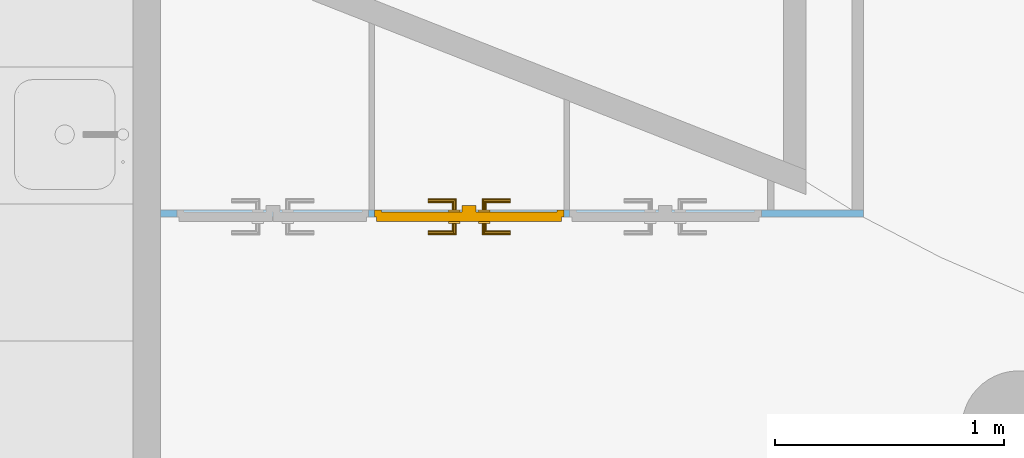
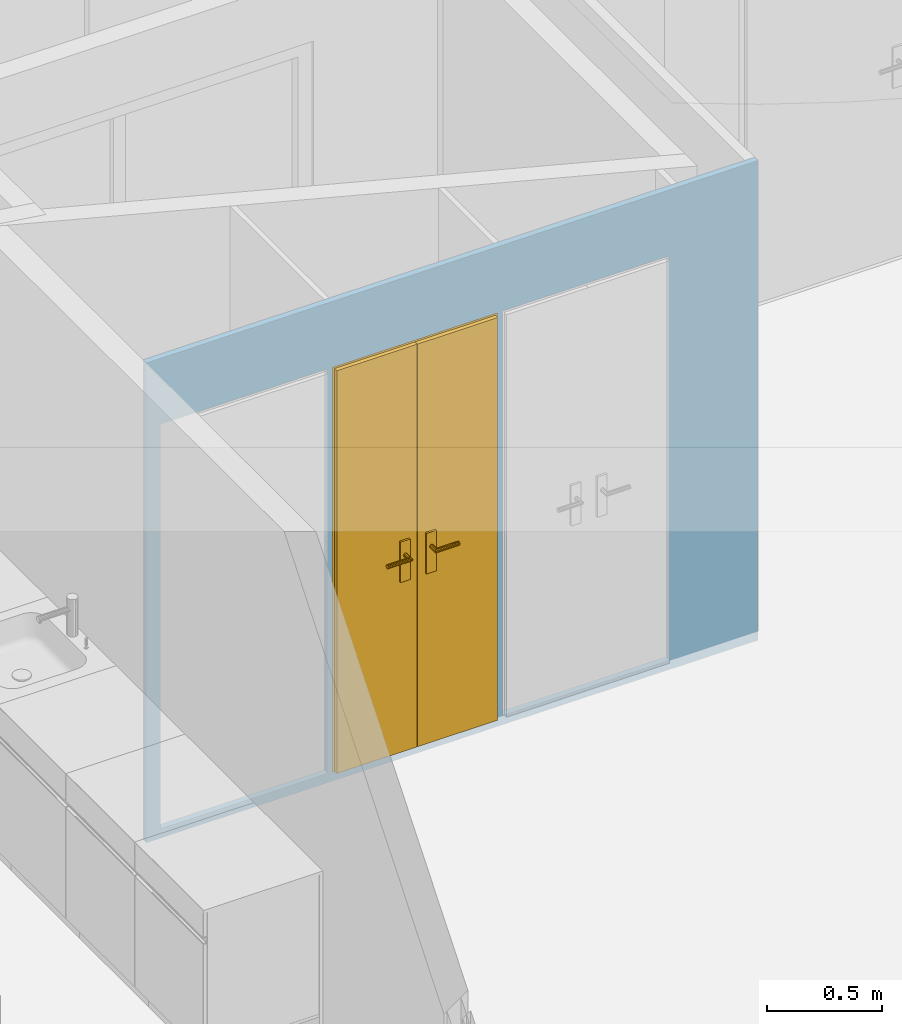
"""IFC4 building model written with IfcOpenShell, lengths in metres."""

from ifc_helpers import new_model, entity, si_unit, converted_unit, derived_unit, frame, frame_2d, origin, origin_with_axes, place, context, subcontext, project, spatial, polyline, rectangle, outline, extrude, faceted_brep, source, transform, mapped, material, layer, layer_set, layer_usage, element, fill, save


model = new_model("IFC4")

# Units and contexts
model_context = context("Model", 3, precision=1e-05, world=origin())
body_context = subcontext(model_context, "Body", "Model", "MODEL_VIEW")
ifc_project = project(units=[si_unit("LENGTHUNIT", "METRE"), si_unit("AREAUNIT", "SQUARE_METRE"), si_unit("VOLUMEUNIT", "CUBIC_METRE"), si_unit("MASSUNIT", "GRAM", prefix="KILO"), converted_unit("PLANEANGLEUNIT", "DEGREE", entity("IfcPlaneAngleMeasure", 0.0174532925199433), si_unit("PLANEANGLEUNIT", "RADIAN"), dimensions=[0, 0, 0, 0, 0, 0, 0]), derived_unit("THERMALTRANSMITTANCEUNIT", [(si_unit("POWERUNIT", "WATT"), 1), (si_unit("THERMODYNAMICTEMPERATUREUNIT", "KELVIN"), -1), (si_unit("LENGTHUNIT", "METRE"), -2)]), derived_unit("VOLUMETRICFLOWRATEUNIT", [(si_unit("LENGTHUNIT", "METRE"), 3), (converted_unit("TIMEUNIT", "hour", entity("IfcTimeMeasure", 3600.0), si_unit("TIMEUNIT", "SECOND"), dimensions=[0, 0, 1, 0, 0, 0, 0]), -1), (si_unit("LENGTHUNIT", "METRE"), -1)])], contexts=[model_context])

# Building, storeys
building_placement = place(None, origin())
building = spatial("IfcBuilding", under=ifc_project, at=building_placement, Name="HABITATGE PLURIFAMILIAR", CompositionType="ELEMENT")
storey_1_placement = place(building_placement, frame((0.0, 0.0, 3.35)))
storey_1 = spatial("IfcBuildingStorey", under=building, at=storey_1_placement, Name="PLANTA  ALTELL", CompositionType="ELEMENT", Elevation=3.35)
storey_2_placement = place(storey_1_placement, origin())
storey_2 = spatial("IfcBuildingStorey", under=storey_1, at=storey_2_placement, Name="NOU", CompositionType="PARTIAL")

# Wall, openings, door
ifc_material = material()
ifc_layer = layer(ifc_material, 0.03)
ifc_layer_set = layer_set([ifc_layer])
ifc_layer_usage = layer_usage(ifc_layer_set, "AXIS2", "POSITIVE", 0.0)
wall_placement = place(storey_2_placement, frame((406.991931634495, 22.0635846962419, -0.05)))
wall = element("IfcWall", 1, at=wall_placement, inside=storey_2, material=ifc_layer_usage, Name="Evans PA", context=body_context, shape_type="SweptSolid", body=[
    extrude(rectangle(XDim=3.07526201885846, YDim=0.03, at=frame_2d((1.53763100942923, 0.015), x_axis=(1.0, 0.0))), origin_with_axes(), (0.0, 0.0, 1.0), 2.55),
])
opening_1_placement = place(wall_placement, frame((0.935853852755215, 0.0, 0.05), z_axis=(0.0, 1.0, 0.0), x_axis=(0.0, 0.0, 1.0)))
opening_1 = element("IfcOpeningElement", 2, at=opening_1_placement, cuts=wall, Name="Vano de puerta PA", ObjectType="Opening", context=body_context, shape_type="SweptSolid", body=[
    extrude(outline(polyline([(2.15, 0.828330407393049), (2.15, 0.0), (0.0, 0.0), (0.0, 0.828330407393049), (2.15, 0.828330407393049)])), origin_with_axes(), (0.0, 0.0, 1.0), 0.03),
])
opening_2_placement = place(wall_placement, frame((1.78918426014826, 0.0, 0.05), z_axis=(0.0, 1.0, 0.0), x_axis=(0.0, 0.0, 1.0)))
element("IfcOpeningElement", 3, at=opening_2_placement, cuts=wall, Name="Vano de puerta PA", ObjectType="Opening", context=body_context, shape_type="SweptSolid", body=[
    extrude(outline(polyline([(2.15, 0.839188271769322), (2.15, 0.0), (0.0, 0.0), (0.0, 0.839188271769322), (2.15, 0.839188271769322)])), origin_with_axes(), (0.0, 0.0, 1.0), 0.03),
])
opening_3_placement = place(wall_placement, frame((0.0714767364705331, 0.0, 0.05), z_axis=(0.0, 1.0, 0.0), x_axis=(0.0, 0.0, 1.0)))
element("IfcOpeningElement", 4, at=opening_3_placement, cuts=wall, Name="Vano de puerta PA", ObjectType="Opening", context=body_context, shape_type="SweptSolid", body=[
    extrude(outline(polyline([(2.15, 0.839188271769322), (2.15, 0.0), (0.0, 0.0), (0.0, 0.839188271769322), (2.15, 0.839188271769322)])), origin_with_axes(), (0.0, 0.0, 1.0), 0.03),
])
shared_shape = source(origin_with_axes(), body_context, "Body", "Brep", [
    faceted_brep([(0.828330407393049, 0.03, 2.15), (0.798330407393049, 0.03, 2.15), (0.798330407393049, 0.03, 0.0), (0.828330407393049, 0.03, 0.0), (0.828330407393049, 0.0, 0.0), (0.798330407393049, 0.0, 0.0), (0.798330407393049, 0.0, 2.15), (0.828330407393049, 0.0, 2.15)], [[[0, 1, 2, 3]], [[4, 5, 6, 7]], [[3, 4, 7, 0]], [[2, 5, 4, 3]], [[1, 6, 5, 2]], [[0, 7, 6, 1]]], orient=[[False], [False], [False], [False], [False], [False]]),
    faceted_brep([(0.03, 0.03, 2.15), (0.0, 0.03, 2.15), (0.0, 0.03, 0.0), (0.03, 0.03, 0.0), (0.03, 0.0, 0.0), (0.0, 0.0, 0.0), (0.0, 0.0, 2.15), (0.03, 0.0, 2.15)], [[[0, 1, 2, 3]], [[4, 5, 6, 7]], [[3, 4, 7, 0]], [[2, 5, 4, 3]], [[1, 6, 5, 2]], [[0, 7, 6, 1]]], orient=[[False], [False], [False], [False], [False], [False]]),
    faceted_brep([(0.798330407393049, 0.03, 2.15), (0.03, 0.03, 2.15), (0.03, 0.03, 2.12), (0.798330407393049, 0.03, 2.12), (0.798330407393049, 0.0, 2.12), (0.03, 0.0, 2.12), (0.03, 0.0, 2.15), (0.798330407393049, 0.0, 2.15)], [[[0, 1, 2, 3]], [[4, 5, 6, 7]], [[3, 4, 7, 0]], [[2, 5, 4, 3]], [[1, 6, 5, 2]], [[0, 7, 6, 1]]], orient=[[False], [False], [False], [False], [False], [False]]),
    faceted_brep([(0.818330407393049, 0.05, 2.14), (0.414665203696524, 0.05, 2.14), (0.414665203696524, 0.05, 0.0), (0.818330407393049, 0.05, 0.0), (0.818330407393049, 0.01, 0.0), (0.414665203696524, 0.01, 0.0), (0.414665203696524, 0.01, 2.14), (0.818330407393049, 0.01, 2.14)], [[[0, 1, 2, 3]], [[4, 5, 6, 7]], [[3, 4, 7, 0]], [[2, 5, 4, 3]], [[1, 6, 5, 2]], [[0, 7, 6, 1]]], orient=[[False], [False], [False], [False], [False], [False]]),
    faceted_brep([(0.444665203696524, 0.01, 2.12), (0.384665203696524, 0.01, 2.12), (0.384665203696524, 0.01, 0.0), (0.444665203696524, 0.01, 0.0), (0.444665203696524, -0.02, 0.0), (0.384665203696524, -0.02, 0.0), (0.384665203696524, -0.02, 2.12), (0.444665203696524, -0.02, 2.12)], [[[0, 1, 2, 3]], [[4, 5, 6, 7]], [[3, 4, 7, 0]], [[2, 5, 4, 3]], [[1, 6, 5, 2]], [[0, 7, 6, 1]]], orient=[[False], [False], [False], [False], [False], [False]]),
    faceted_brep([(0.504665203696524, 0.01, 1.125), (0.454665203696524, 0.01, 1.125), (0.454665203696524, 0.01, 0.91), (0.504665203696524, 0.01, 0.91), (0.504665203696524, 0.0, 0.91), (0.454665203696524, 0.0, 0.91), (0.454665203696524, 0.0, 1.125), (0.504665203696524, 0.0, 1.125)], [[[0, 1, 2, 3]], [[4, 5, 6, 7]], [[3, 4, 7, 0]], [[2, 5, 4, 3]], [[1, 6, 5, 2]], [[0, 7, 6, 1]]], orient=[[False], [False], [False], [False], [False], [False]]),
    faceted_brep([(0.479665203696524, 0.0, 1.06), (0.474665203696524, 0.0, 1.05866025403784), (0.471004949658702, 0.0, 1.055), (0.469665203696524, 0.0, 1.05), (0.471004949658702, 0.0, 1.045), (0.474665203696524, 0.0, 1.04133974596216), (0.479665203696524, 0.0, 1.04), (0.484665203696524, 0.0, 1.04133974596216), (0.488325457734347, 0.0, 1.045), (0.489665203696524, 0.0, 1.05), (0.488325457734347, 0.0, 1.055), (0.484665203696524, 0.0, 1.05866025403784), (0.479665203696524, -0.04, 1.06), (0.474665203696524, -0.045, 1.05866025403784), (0.471004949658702, -0.0486602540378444, 1.055), (0.469665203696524, -0.05, 1.05), (0.471004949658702, -0.0486602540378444, 1.045), (0.474665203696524, -0.045, 1.04133974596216), (0.479665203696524, -0.04, 1.04), (0.484665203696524, -0.035, 1.04133974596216), (0.488325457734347, -0.0313397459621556, 1.045), (0.489665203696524, -0.03, 1.05), (0.488325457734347, -0.0313397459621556, 1.055), (0.484665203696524, -0.035, 1.05866025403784), (0.594665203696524, -0.04, 1.06), (0.594665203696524, -0.035, 1.05866025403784), (0.594665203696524, -0.0313397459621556, 1.055), (0.594665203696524, -0.03, 1.05), (0.594665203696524, -0.0313397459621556, 1.045), (0.594665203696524, -0.035, 1.04133974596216), (0.594665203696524, -0.04, 1.04), (0.594665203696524, -0.045, 1.04133974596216), (0.594665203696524, -0.0486602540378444, 1.045), (0.594665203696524, -0.05, 1.05), (0.594665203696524, -0.0486602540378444, 1.055), (0.594665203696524, -0.045, 1.05866025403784)], [[[0, 1, 2, 3, 4, 5, 6, 7, 8, 9, 10, 11]], [[0, 12, 13, 1]], [[1, 13, 14, 2]], [[2, 14, 15, 3]], [[3, 15, 16, 4]], [[4, 16, 17, 5]], [[5, 17, 18, 6]], [[6, 18, 19, 7]], [[7, 19, 20, 8]], [[8, 20, 21, 9]], [[9, 21, 22, 10]], [[10, 22, 23, 11]], [[11, 23, 12, 0]], [[24, 25, 26, 27, 28, 29, 30, 31, 32, 33, 34, 35]], [[12, 24, 35, 13]], [[13, 35, 34, 14]], [[14, 34, 33, 15]], [[15, 33, 32, 16]], [[16, 32, 31, 17]], [[17, 31, 30, 18]], [[18, 30, 29, 19]], [[19, 29, 28, 20]], [[20, 28, 27, 21]], [[21, 27, 26, 22]], [[22, 26, 25, 23]], [[23, 25, 24, 12]]], orient=[[False], [False], [False], [False], [False], [False], [False], [False], [False], [False], [False], [False], [False], [False], [False], [False], [False], [False], [False], [False], [False], [False], [False], [False], [False], [False]]),
    faceted_brep([(0.504665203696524, 0.05, 1.125), (0.504665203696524, 0.05, 0.91), (0.454665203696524, 0.05, 0.91), (0.454665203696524, 0.05, 1.125), (0.504665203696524, 0.06, 0.91), (0.504665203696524, 0.06, 1.125), (0.454665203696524, 0.06, 1.125), (0.454665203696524, 0.06, 0.91)], [[[0, 1, 2, 3]], [[4, 5, 6, 7]], [[1, 0, 5, 4]], [[2, 1, 4, 7]], [[3, 2, 7, 6]], [[0, 3, 6, 5]]], orient=[[False], [False], [False], [False], [False], [False]]),
    faceted_brep([(0.479665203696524, 0.06, 1.06), (0.484665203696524, 0.06, 1.05866025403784), (0.488325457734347, 0.06, 1.055), (0.489665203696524, 0.06, 1.05), (0.488325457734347, 0.06, 1.045), (0.484665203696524, 0.06, 1.04133974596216), (0.479665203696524, 0.06, 1.04), (0.474665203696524, 0.06, 1.04133974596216), (0.471004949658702, 0.06, 1.045), (0.469665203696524, 0.06, 1.05), (0.471004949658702, 0.06, 1.055), (0.474665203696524, 0.06, 1.05866025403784), (0.474665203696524, 0.105, 1.05866025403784), (0.479665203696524, 0.1, 1.06), (0.471004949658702, 0.108660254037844, 1.055), (0.469665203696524, 0.11, 1.05), (0.471004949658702, 0.108660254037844, 1.045), (0.474665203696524, 0.105, 1.04133974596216), (0.479665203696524, 0.1, 1.04), (0.484665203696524, 0.095, 1.04133974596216), (0.488325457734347, 0.0913397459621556, 1.045), (0.489665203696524, 0.09, 1.05), (0.488325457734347, 0.0913397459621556, 1.055), (0.484665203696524, 0.095, 1.05866025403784), (0.594665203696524, 0.1, 1.06), (0.594665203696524, 0.105, 1.05866025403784), (0.594665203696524, 0.108660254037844, 1.055), (0.594665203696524, 0.11, 1.05), (0.594665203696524, 0.108660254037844, 1.045), (0.594665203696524, 0.105, 1.04133974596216), (0.594665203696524, 0.1, 1.04), (0.594665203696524, 0.095, 1.04133974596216), (0.594665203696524, 0.0913397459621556, 1.045), (0.594665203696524, 0.09, 1.05), (0.594665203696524, 0.0913397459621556, 1.055), (0.594665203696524, 0.095, 1.05866025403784)], [[[0, 1, 2, 3, 4, 5, 6, 7, 8, 9, 10, 11]], [[0, 11, 12, 13]], [[11, 10, 14, 12]], [[10, 9, 15, 14]], [[9, 8, 16, 15]], [[8, 7, 17, 16]], [[7, 6, 18, 17]], [[6, 5, 19, 18]], [[5, 4, 20, 19]], [[4, 3, 21, 20]], [[3, 2, 22, 21]], [[2, 1, 23, 22]], [[1, 0, 13, 23]], [[24, 25, 26, 27, 28, 29, 30, 31, 32, 33, 34, 35]], [[13, 12, 25, 24]], [[12, 14, 26, 25]], [[14, 15, 27, 26]], [[15, 16, 28, 27]], [[16, 17, 29, 28]], [[17, 18, 30, 29]], [[18, 19, 31, 30]], [[19, 20, 32, 31]], [[20, 21, 33, 32]], [[21, 22, 34, 33]], [[22, 23, 35, 34]], [[23, 13, 24, 35]]], orient=[[False], [False], [False], [False], [False], [False], [False], [False], [False], [False], [False], [False], [False], [False], [False], [False], [False], [False], [False], [False], [False], [False], [False], [False], [False], [False]]),
    faceted_brep([(0.413665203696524, 0.05, 2.14), (0.01, 0.05, 2.14), (0.01, 0.05, 0.0), (0.413665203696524, 0.05, 0.0), (0.413665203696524, 0.01, 0.0), (0.01, 0.01, 0.0), (0.01, 0.01, 2.14), (0.413665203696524, 0.01, 2.14)], [[[0, 1, 2, 3]], [[4, 5, 6, 7]], [[3, 4, 7, 0]], [[2, 5, 4, 3]], [[1, 6, 5, 2]], [[0, 7, 6, 1]]], orient=[[False], [False], [False], [False], [False], [False]]),
    faceted_brep([(0.373665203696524, 0.01, 1.125), (0.323665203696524, 0.01, 1.125), (0.323665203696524, 0.01, 0.91), (0.373665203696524, 0.01, 0.91), (0.373665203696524, 0.0, 0.91), (0.323665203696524, 0.0, 0.91), (0.323665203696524, 0.0, 1.125), (0.373665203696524, 0.0, 1.125)], [[[0, 1, 2, 3]], [[4, 5, 6, 7]], [[3, 4, 7, 0]], [[2, 5, 4, 3]], [[1, 6, 5, 2]], [[0, 7, 6, 1]]], orient=[[False], [False], [False], [False], [False], [False]]),
    faceted_brep([(0.348665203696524, 0.0, 1.06), (0.343665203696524, 0.0, 1.05866025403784), (0.340004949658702, 0.0, 1.055), (0.338665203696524, 0.0, 1.05), (0.340004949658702, 0.0, 1.045), (0.343665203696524, 0.0, 1.04133974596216), (0.348665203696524, 0.0, 1.04), (0.353665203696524, 0.0, 1.04133974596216), (0.357325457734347, 0.0, 1.045), (0.358665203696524, 0.0, 1.05), (0.357325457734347, 0.0, 1.055), (0.353665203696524, 0.0, 1.05866025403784), (0.353665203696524, -0.045, 1.05866025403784), (0.348665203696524, -0.04, 1.06), (0.357325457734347, -0.0486602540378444, 1.055), (0.358665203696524, -0.05, 1.05), (0.357325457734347, -0.0486602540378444, 1.045), (0.353665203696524, -0.045, 1.04133974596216), (0.348665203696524, -0.04, 1.04), (0.343665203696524, -0.035, 1.04133974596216), (0.340004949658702, -0.0313397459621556, 1.045), (0.338665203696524, -0.03, 1.05), (0.340004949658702, -0.0313397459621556, 1.055), (0.343665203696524, -0.035, 1.05866025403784), (0.233665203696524, -0.04, 1.06), (0.233665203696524, -0.045, 1.05866025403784), (0.233665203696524, -0.0486602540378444, 1.055), (0.233665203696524, -0.05, 1.05), (0.233665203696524, -0.0486602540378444, 1.045), (0.233665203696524, -0.045, 1.04133974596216), (0.233665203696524, -0.04, 1.04), (0.233665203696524, -0.035, 1.04133974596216), (0.233665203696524, -0.0313397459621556, 1.045), (0.233665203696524, -0.03, 1.05), (0.233665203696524, -0.0313397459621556, 1.055), (0.233665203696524, -0.035, 1.05866025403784)], [[[0, 1, 2, 3, 4, 5, 6, 7, 8, 9, 10, 11]], [[0, 11, 12, 13]], [[11, 10, 14, 12]], [[10, 9, 15, 14]], [[9, 8, 16, 15]], [[8, 7, 17, 16]], [[7, 6, 18, 17]], [[6, 5, 19, 18]], [[5, 4, 20, 19]], [[4, 3, 21, 20]], [[3, 2, 22, 21]], [[2, 1, 23, 22]], [[1, 0, 13, 23]], [[24, 25, 26, 27, 28, 29, 30, 31, 32, 33, 34, 35]], [[13, 12, 25, 24]], [[12, 14, 26, 25]], [[14, 15, 27, 26]], [[15, 16, 28, 27]], [[16, 17, 29, 28]], [[17, 18, 30, 29]], [[18, 19, 31, 30]], [[19, 20, 32, 31]], [[20, 21, 33, 32]], [[21, 22, 34, 33]], [[22, 23, 35, 34]], [[23, 13, 24, 35]]], orient=[[False], [False], [False], [False], [False], [False], [False], [False], [False], [False], [False], [False], [False], [False], [False], [False], [False], [False], [False], [False], [False], [False], [False], [False], [False], [False]]),
    faceted_brep([(0.373665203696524, 0.05, 1.125), (0.373665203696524, 0.05, 0.91), (0.323665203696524, 0.05, 0.91), (0.323665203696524, 0.05, 1.125), (0.373665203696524, 0.06, 0.91), (0.373665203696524, 0.06, 1.125), (0.323665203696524, 0.06, 1.125), (0.323665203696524, 0.06, 0.91)], [[[0, 1, 2, 3]], [[4, 5, 6, 7]], [[1, 0, 5, 4]], [[2, 1, 4, 7]], [[3, 2, 7, 6]], [[0, 3, 6, 5]]], orient=[[False], [False], [False], [False], [False], [False]]),
    faceted_brep([(0.348665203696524, 0.06, 1.06), (0.353665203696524, 0.06, 1.05866025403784), (0.357325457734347, 0.06, 1.055), (0.358665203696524, 0.06, 1.05), (0.357325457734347, 0.06, 1.045), (0.353665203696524, 0.06, 1.04133974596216), (0.348665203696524, 0.06, 1.04), (0.343665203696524, 0.06, 1.04133974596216), (0.340004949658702, 0.06, 1.045), (0.338665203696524, 0.06, 1.05), (0.340004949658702, 0.06, 1.055), (0.343665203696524, 0.06, 1.05866025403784), (0.348665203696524, 0.1, 1.06), (0.353665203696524, 0.105, 1.05866025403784), (0.357325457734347, 0.108660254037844, 1.055), (0.358665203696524, 0.11, 1.05), (0.357325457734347, 0.108660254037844, 1.045), (0.353665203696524, 0.105, 1.04133974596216), (0.348665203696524, 0.1, 1.04), (0.343665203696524, 0.095, 1.04133974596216), (0.340004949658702, 0.0913397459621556, 1.045), (0.338665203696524, 0.09, 1.05), (0.340004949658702, 0.0913397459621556, 1.055), (0.343665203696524, 0.095, 1.05866025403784), (0.233665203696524, 0.1, 1.06), (0.233665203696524, 0.095, 1.05866025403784), (0.233665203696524, 0.0913397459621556, 1.055), (0.233665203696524, 0.09, 1.05), (0.233665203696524, 0.0913397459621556, 1.045), (0.233665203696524, 0.095, 1.04133974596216), (0.233665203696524, 0.1, 1.04), (0.233665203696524, 0.105, 1.04133974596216), (0.233665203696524, 0.108660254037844, 1.045), (0.233665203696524, 0.11, 1.05), (0.233665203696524, 0.108660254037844, 1.055), (0.233665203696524, 0.105, 1.05866025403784)], [[[0, 1, 2, 3, 4, 5, 6, 7, 8, 9, 10, 11]], [[0, 12, 13, 1]], [[1, 13, 14, 2]], [[2, 14, 15, 3]], [[3, 15, 16, 4]], [[4, 16, 17, 5]], [[5, 17, 18, 6]], [[6, 18, 19, 7]], [[7, 19, 20, 8]], [[8, 20, 21, 9]], [[9, 21, 22, 10]], [[10, 22, 23, 11]], [[11, 23, 12, 0]], [[24, 25, 26, 27, 28, 29, 30, 31, 32, 33, 34, 35]], [[12, 24, 35, 13]], [[13, 35, 34, 14]], [[14, 34, 33, 15]], [[15, 33, 32, 16]], [[16, 32, 31, 17]], [[17, 31, 30, 18]], [[18, 30, 29, 19]], [[19, 29, 28, 20]], [[20, 28, 27, 21]], [[21, 27, 26, 22]], [[22, 26, 25, 23]], [[23, 25, 24, 12]]], orient=[[False], [False], [False], [False], [False], [False], [False], [False], [False], [False], [False], [False], [False], [False], [False], [False], [False], [False], [False], [False], [False], [False], [False], [False], [False], [False]]),
])
door_placement = place(opening_1_placement, frame((0.0, 0.828330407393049, 0.03), z_axis=(1.0, 0.0, 0.0), x_axis=(0.0, -1.0, 0.0)))
door = element("IfcDoor", 5, at=door_placement, inside=storey_2, Name="Porta PA", OperationType="USERDEFINED", OverallHeight=2.15, OverallWidth=0.82833, PredefinedType="DOOR", context=body_context, shape_type="MappedRepresentation", body=[
    mapped(shared_shape, transform((0.0, 0.0, 0.0), x_axis=(1.0, 0.0, 0.0), y_axis=(0.0, 1.0, 0.0), z_axis=(0.0, 0.0, 1.0), scale=1.0)),
])
fill(opening_1, door)

save(model, "model.ifc")
